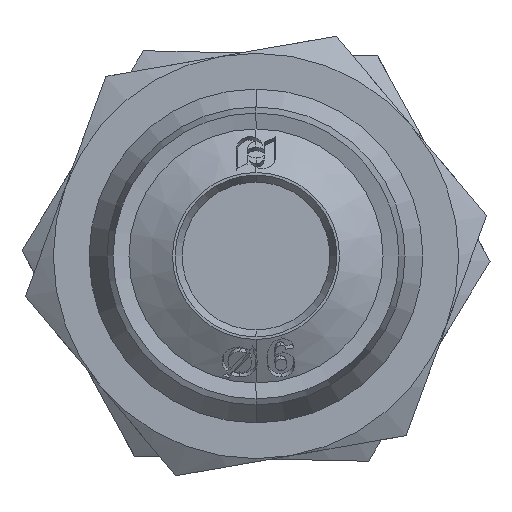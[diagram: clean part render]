
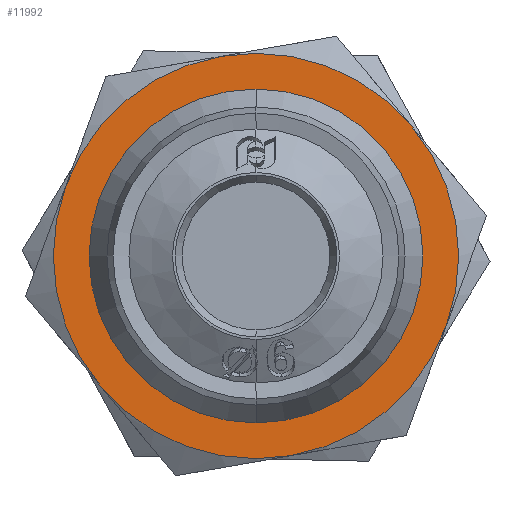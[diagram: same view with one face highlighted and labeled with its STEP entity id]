
A CAD part, left-side view. The second image highlights one B-rep face of the part: STEP entity #11992.
In plain terms, the highlighted planar face has unit normal (-1, 0, 0).
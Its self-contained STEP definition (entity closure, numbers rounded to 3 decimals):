
#2341 = AXIS2_PLACEMENT_3D ( 'NONE', #6936, #6937, #6938 ) ;
#2539 = CIRCLE ( 'NONE', #11923, 8.5 ) ;
#2540 = CIRCLE ( 'NONE', #11922, 8.5 ) ;
#2544 = CIRCLE ( 'NONE', #11924, 8.5 ) ;
#2546 = CIRCLE ( 'NONE', #11925, 8.5 ) ;
#2548 = CIRCLE ( 'NONE', #11926, 8.5 ) ;
#2550 = CIRCLE ( 'NONE', #11927, 8.5 ) ;
#4229 = AXIS2_PLACEMENT_3D ( 'NONE', #7371, #7372, #7373 ) ;
#5154 = CARTESIAN_POINT ( 'NONE',  ( 6., 0., 0. ) ) ;
#5155 = DIRECTION ( 'NONE',  ( -1., 0., 0. ) ) ;
#5156 = DIRECTION ( 'NONE',  ( 0., -0.172, -0.985 ) ) ;
#5157 = CARTESIAN_POINT ( 'NONE',  ( 6., 0., 0. ) ) ;
#5158 = DIRECTION ( 'NONE',  ( -1., 0., 0. ) ) ;
#5159 = DIRECTION ( 'NONE',  ( 0., -0.172, -0.985 ) ) ;
#5160 = CARTESIAN_POINT ( 'NONE',  ( 6., 0., 0. ) ) ;
#5161 = DIRECTION ( 'NONE',  ( -1., 0., 0. ) ) ;
#5162 = DIRECTION ( 'NONE',  ( 0., -0.172, -0.985 ) ) ;
#5163 = CARTESIAN_POINT ( 'NONE',  ( 6., 0., 0. ) ) ;
#5164 = DIRECTION ( 'NONE',  ( -1., 0., 0. ) ) ;
#5165 = DIRECTION ( 'NONE',  ( 0., -0.172, -0.985 ) ) ;
#5167 = CARTESIAN_POINT ( 'NONE',  ( 6., 0., 0. ) ) ;
#5168 = DIRECTION ( 'NONE',  ( -1., 0., 0. ) ) ;
#5169 = DIRECTION ( 'NONE',  ( 0., -0.172, -0.985 ) ) ;
#5171 = CARTESIAN_POINT ( 'NONE',  ( 6., 0., 0. ) ) ;
#5172 = DIRECTION ( 'NONE',  ( -1., 0., 0. ) ) ;
#5173 = DIRECTION ( 'NONE',  ( 0., -0.172, -0.985 ) ) ;
#5747 = FACE_OUTER_BOUND ( 'NONE', #13203, .T. ) ;
#5751 = FACE_BOUND ( 'NONE', #13204, .T. ) ;
#6929 = PLANE ( 'NONE',  #2341 ) ;
#6936 = CARTESIAN_POINT ( 'NONE',  ( 6., 0., 0. ) ) ;
#6937 = DIRECTION ( 'NONE',  ( -1., 0., 0. ) ) ;
#6938 = DIRECTION ( 'NONE',  ( 0., -0.172, -0.985 ) ) ;
#7300 = CARTESIAN_POINT ( 'NONE',  ( 6., 6.52, -5.453 ) ) ;
#7321 = CARTESIAN_POINT ( 'NONE',  ( 6., -7.983, -2.92 ) ) ;
#7346 = CARTESIAN_POINT ( 'NONE',  ( 6., 7.983, 2.92 ) ) ;
#7371 = CARTESIAN_POINT ( 'NONE',  ( 6., 0., 0. ) ) ;
#7372 = DIRECTION ( 'NONE',  ( -1., 0., 0. ) ) ;
#7373 = DIRECTION ( 'NONE',  ( 0., 0., 1. ) ) ;
#9167 = CIRCLE ( 'NONE', #4229, 7. ) ;
#9702 = VERTEX_POINT ( 'NONE', #7300 ) ;
#9723 = VERTEX_POINT ( 'NONE', #7321 ) ;
#9748 = VERTEX_POINT ( 'NONE', #7346 ) ;
#10039 = EDGE_CURVE ( 'NONE', #12853, #12862, #9167, .T. ) ;
#11922 = AXIS2_PLACEMENT_3D ( 'NONE', #5154, #5155, #5156 ) ;
#11923 = AXIS2_PLACEMENT_3D ( 'NONE', #5157, #5158, #5159 ) ;
#11924 = AXIS2_PLACEMENT_3D ( 'NONE', #5160, #5161, #5162 ) ;
#11925 = AXIS2_PLACEMENT_3D ( 'NONE', #5163, #5164, #5165 ) ;
#11926 = AXIS2_PLACEMENT_3D ( 'NONE', #5167, #5168, #5169 ) ;
#11927 = AXIS2_PLACEMENT_3D ( 'NONE', #5171, #5172, #5173 ) ;
#11992 = ADVANCED_FACE ( 'NONE', ( #5747, #5751 ), #6929, .T. ) ;
#12852 = VERTEX_POINT ( 'NONE', #15092 ) ;
#12853 = VERTEX_POINT ( 'NONE', #15097 ) ;
#12862 = VERTEX_POINT ( 'NONE', #15094 ) ;
#12915 = VERTEX_POINT ( 'NONE', #15157 ) ;
#12928 = VERTEX_POINT ( 'NONE', #15170 ) ;
#13057 = EDGE_CURVE ( 'NONE', #12862, #12853, #13802, .T. ) ;
#13203 = EDGE_LOOP ( 'NONE', ( #14771, #14772, #14773, #14774, #14775, #14776 ) ) ;
#13204 = EDGE_LOOP ( 'NONE', ( #14777, #14778 ) ) ;
#13802 = CIRCLE ( 'NONE', #15546, 7. ) ;
#14771 = ORIENTED_EDGE ( 'NONE', *, *, #15784, .T. ) ;
#14772 = ORIENTED_EDGE ( 'NONE', *, *, #15785, .T. ) ;
#14773 = ORIENTED_EDGE ( 'NONE', *, *, #15786, .T. ) ;
#14774 = ORIENTED_EDGE ( 'NONE', *, *, #15787, .T. ) ;
#14775 = ORIENTED_EDGE ( 'NONE', *, *, #15788, .T. ) ;
#14776 = ORIENTED_EDGE ( 'NONE', *, *, #15789, .T. ) ;
#14777 = ORIENTED_EDGE ( 'NONE', *, *, #13057, .F. ) ;
#14778 = ORIENTED_EDGE ( 'NONE', *, *, #10039, .F. ) ;
#15092 = CARTESIAN_POINT ( 'NONE',  ( 6., -1.462, -8.373 ) ) ;
#15094 = CARTESIAN_POINT ( 'NONE',  ( 6., 0., 7. ) ) ;
#15097 = CARTESIAN_POINT ( 'NONE',  ( 6., 0., -7. ) ) ;
#15157 = CARTESIAN_POINT ( 'NONE',  ( 6., -6.52, 5.453 ) ) ;
#15170 = CARTESIAN_POINT ( 'NONE',  ( 6., 1.462, 8.373 ) ) ;
#15546 = AXIS2_PLACEMENT_3D ( 'NONE', #17689, #17690, #17691 ) ;
#15784 = EDGE_CURVE ( 'NONE', #12852, #9723, #2540, .T. ) ;
#15785 = EDGE_CURVE ( 'NONE', #9723, #12915, #2539, .T. ) ;
#15786 = EDGE_CURVE ( 'NONE', #12915, #12928, #2544, .T. ) ;
#15787 = EDGE_CURVE ( 'NONE', #12928, #9748, #2546, .T. ) ;
#15788 = EDGE_CURVE ( 'NONE', #9748, #9702, #2548, .T. ) ;
#15789 = EDGE_CURVE ( 'NONE', #9702, #12852, #2550, .T. ) ;
#17689 = CARTESIAN_POINT ( 'NONE',  ( 6., 0., 0. ) ) ;
#17690 = DIRECTION ( 'NONE',  ( -1., 0., 0. ) ) ;
#17691 = DIRECTION ( 'NONE',  ( 0., 0., 1. ) ) ;
